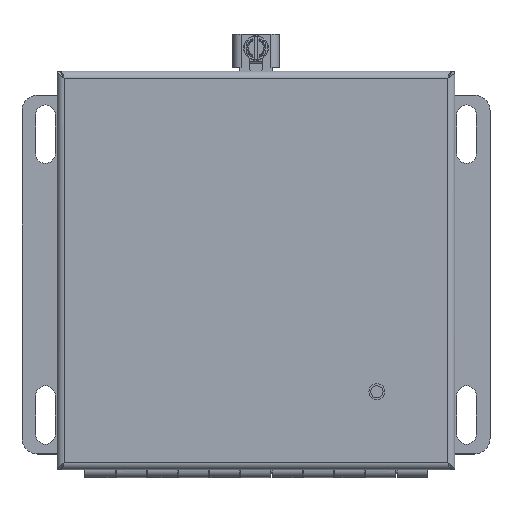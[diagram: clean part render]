
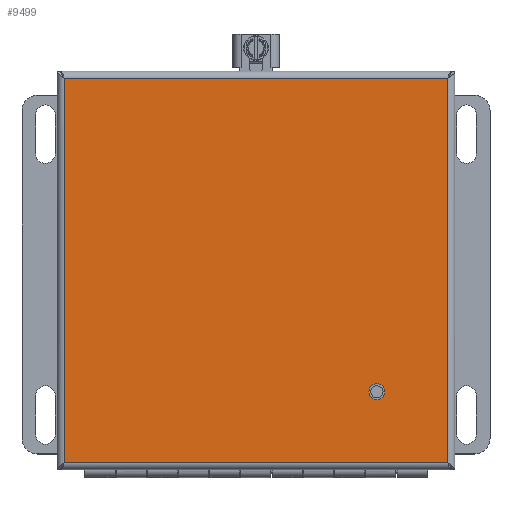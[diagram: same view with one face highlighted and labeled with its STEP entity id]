
A CAD part, top view. The second image highlights one B-rep face of the part: STEP entity #9499.
In plain terms, the highlighted planar face has unit normal (0, 0, 1) as drawn and (0, 0, -1) by its records, which use the part's own axes.
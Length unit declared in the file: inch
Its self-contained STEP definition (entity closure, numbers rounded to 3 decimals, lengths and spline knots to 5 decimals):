
#8236=DIRECTION('',(0.,-1.,0.));
#8237=VECTOR('',#8236,6.161);
#8238=CARTESIAN_POINT('',(6.263,-0.01211,0.));
#8239=LINE('',#8238,#8237);
#8273=CARTESIAN_POINT('',(1.25,-5.03511,0.));
#8274=DIRECTION('',(0.,0.,-1.));
#8275=DIRECTION('',(0.,-1.,0.));
#8276=AXIS2_PLACEMENT_3D('',#8273,#8274,#8275);
#8281=CARTESIAN_POINT('',(1.25,-5.03511,0.));
#8282=DIRECTION('',(0.,0.,-1.));
#8283=DIRECTION('',(0.,1.,0.));
#8284=AXIS2_PLACEMENT_3D('',#8281,#8282,#8283);
#8508=DIRECTION('',(1.,0.,0.));
#8509=VECTOR('',#8508,6.151);
#8510=CARTESIAN_POINT('',(0.112,-6.17311,0.));
#8511=LINE('',#8510,#8509);
#8566=DIRECTION('',(0.,-1.,0.));
#8567=VECTOR('',#8566,6.161);
#8568=CARTESIAN_POINT('',(0.112,-0.01211,0.));
#8569=LINE('',#8568,#8567);
#8690=DIRECTION('',(1.,0.,0.));
#8691=VECTOR('',#8690,6.151);
#8692=CARTESIAN_POINT('',(0.112,-0.01211,0.));
#8693=LINE('',#8692,#8691);
#9012=CARTESIAN_POINT('',(0.112,-0.01211,0.));
#9013=CARTESIAN_POINT('',(6.263,-0.01211,0.));
#9014=VERTEX_POINT('',#9012);
#9015=VERTEX_POINT('',#9013);
#9028=CARTESIAN_POINT('',(0.112,-6.17311,0.));
#9029=CARTESIAN_POINT('',(6.263,-6.17311,0.));
#9030=VERTEX_POINT('',#9028);
#9031=VERTEX_POINT('',#9029);
#9040=CARTESIAN_POINT('',(1.25,-5.13316,0.));
#9041=CARTESIAN_POINT('',(1.25,-4.93706,0.));
#9042=VERTEX_POINT('',#9040);
#9043=VERTEX_POINT('',#9041);
#9479=CARTESIAN_POINT('',(0.,0.09989,0.));
#9480=DIRECTION('',(0.,0.,-1.));
#9481=DIRECTION('',(1.,0.,0.));
#9482=AXIS2_PLACEMENT_3D('',#9479,#9480,#9481);
#9483=PLANE('',#9482);
#9484=ORIENTED_EDGE('',*,*,#9469,.F.);
#9486=ORIENTED_EDGE('',*,*,#9485,.F.);
#9488=ORIENTED_EDGE('',*,*,#9487,.T.);
#9490=ORIENTED_EDGE('',*,*,#9489,.T.);
#9491=EDGE_LOOP('',(#9484,#9486,#9488,#9490));
#9492=FACE_OUTER_BOUND('',#9491,.F.);
#9494=ORIENTED_EDGE('',*,*,#9493,.T.);
#9496=ORIENTED_EDGE('',*,*,#9495,.T.);
#9497=EDGE_LOOP('',(#9494,#9496));
#9498=FACE_BOUND('',#9497,.F.);
#8277=CIRCLE('',#8276,0.09805);
#8285=CIRCLE('',#8284,0.09805);
#9469=EDGE_CURVE('',#9015,#9031,#8239,.T.);
#9485=EDGE_CURVE('',#9014,#9015,#8693,.T.);
#9487=EDGE_CURVE('',#9014,#9030,#8569,.T.);
#9489=EDGE_CURVE('',#9030,#9031,#8511,.T.);
#9493=EDGE_CURVE('',#9042,#9043,#8277,.T.);
#9495=EDGE_CURVE('',#9043,#9042,#8285,.T.);
#9499=ADVANCED_FACE('',(#9492,#9498),#9483,.T.);
